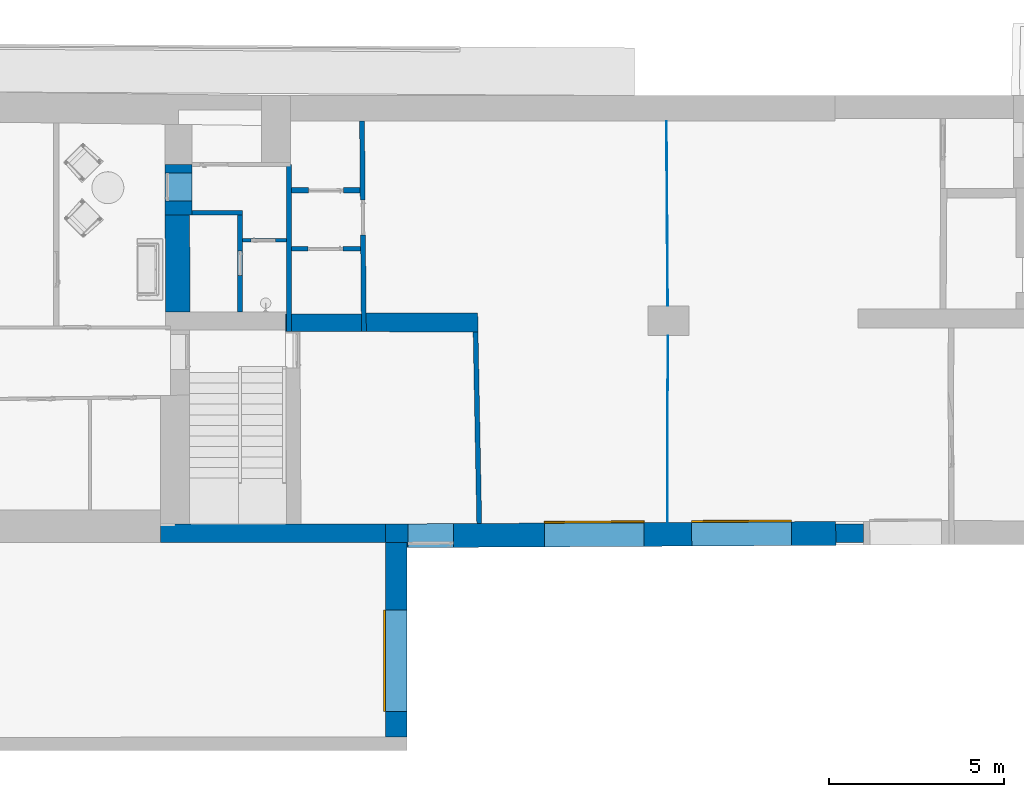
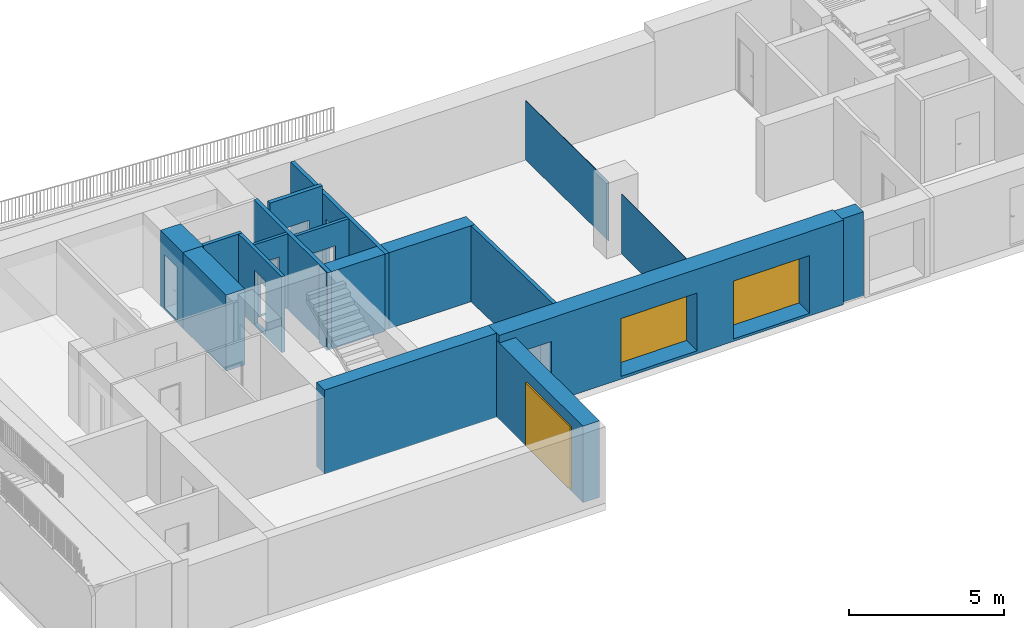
# One storey, part 3 of 17: 17 walls, 3 doors, 14 openings.
"""IFC2X3 building model written with IfcOpenShell, lengths in millimetres."""

from ifc_helpers import new_model, entity, si_unit, converted_unit, derived_unit, direction, frame, frame_2d, origin, origin_2d_with_axis, place, context, subcontext, project, spatial, polyline, rectangle, outline, extrude, clip, bounded_halfspace, source, transform, mapped, material, layer, layer_set, layer_usage, type_object, type_shapes, element, fill, save


model = new_model("IFC2X3")

# Units and contexts
model_context = context("Model", 3, precision=0.01, world=origin(), true_north=direction((6.12303176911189e-17, 1.0)))
context_of_model = context(None, 3, precision=0.01, world=origin(), true_north=direction((6.12303176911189e-17, 1.0)))
body_context = subcontext(model_context, "Body", "Model", "MODEL_VIEW")
ifc_project = project(units=[si_unit("LENGTHUNIT", "METRE", prefix="MILLI"), si_unit("AREAUNIT", "SQUARE_METRE"), si_unit("VOLUMEUNIT", "CUBIC_METRE"), converted_unit("PLANEANGLEUNIT", "DEGREE", entity("IfcRatioMeasure", 0.0174532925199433), si_unit("PLANEANGLEUNIT", "RADIAN"), dimensions=[0, 0, 0, 0, 0, 0, 0]), si_unit("MASSUNIT", "GRAM", prefix="KILO"), derived_unit("MASSDENSITYUNIT", [(si_unit("MASSUNIT", "GRAM", prefix="KILO"), 1), (si_unit("LENGTHUNIT", "METRE"), -3)]), si_unit("TIMEUNIT", "SECOND"), si_unit("FREQUENCYUNIT", "HERTZ"), si_unit("THERMODYNAMICTEMPERATUREUNIT", "DEGREE_CELSIUS"), derived_unit("THERMALTRANSMITTANCEUNIT", [(si_unit("MASSUNIT", "GRAM", prefix="KILO"), 1), (si_unit("THERMODYNAMICTEMPERATUREUNIT", "KELVIN"), -1), (si_unit("TIMEUNIT", "SECOND"), -3)]), derived_unit("VOLUMETRICFLOWRATEUNIT", [(si_unit("LENGTHUNIT", "METRE"), 3), (si_unit("TIMEUNIT", "SECOND"), -1)]), si_unit("ELECTRICCURRENTUNIT", "AMPERE"), si_unit("ELECTRICVOLTAGEUNIT", "VOLT"), si_unit("POWERUNIT", "WATT"), si_unit("FORCEUNIT", "NEWTON", prefix="KILO"), si_unit("ILLUMINANCEUNIT", "LUX"), si_unit("LUMINOUSFLUXUNIT", "LUMEN"), si_unit("LUMINOUSINTENSITYUNIT", "CANDELA"), derived_unit("USERDEFINED", [(si_unit("MASSUNIT", "GRAM", prefix="KILO"), -1), (si_unit("LENGTHUNIT", "METRE"), -2), (si_unit("TIMEUNIT", "SECOND"), 3), (si_unit("LUMINOUSFLUXUNIT", "LUMEN"), 1)]), derived_unit("LINEARVELOCITYUNIT", [(si_unit("LENGTHUNIT", "METRE"), 1), (si_unit("TIMEUNIT", "SECOND"), -1)]), si_unit("PRESSUREUNIT", "PASCAL"), derived_unit("USERDEFINED", [(si_unit("LENGTHUNIT", "METRE"), -2), (si_unit("MASSUNIT", "GRAM", prefix="KILO"), 1), (si_unit("TIMEUNIT", "SECOND"), -2)])], contexts=[model_context, context_of_model])

# Site, building, storey
site_placement = place(None, frame((121442.264707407, 135347.995453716, -1800.0)))
site = spatial("IfcSite", under=ifc_project, at=site_placement, Name="Surface", CompositionType="ELEMENT")
building_placement = place(site_placement, origin())
building = spatial("IfcBuilding", under=site, at=building_placement, CompositionType="ELEMENT")
storey_placement = place(building_placement, frame((0.0, 0.0, -1490.0)))
storey = spatial("IfcBuildingStorey", under=building, at=storey_placement, Name="Kelder", CompositionType="ELEMENT", Elevation=-1489.99999999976)

# Wall
ifc_material_1 = material(Name="__Betoonelement")
ifc_layer_1 = layer(ifc_material_1, 140.0)
ifc_layer_set_1 = layer_set([ifc_layer_1], Name="Basic Wall:14_Betoon 2")
ifc_layer_usage_1 = layer_usage(ifc_layer_set_1, "AXIS2", "NEGATIVE", 70.0)
wall_type_1 = type_object("IfcWallType", Name="Basic Wall:14_Betoon 2", PredefinedType="STANDARD", material=ifc_layer_set_1)
wall_1_placement = place(storey_placement, frame((-106456.566491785, -116807.778632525, 0.0), z_axis=(0.0, 0.0, 1.0), x_axis=(0.0, -1.0, 0.0)))
element("IfcWallStandardCase", 1, at=wall_1_placement, inside=storey, type_object=wall_type_1, material=ifc_layer_usage_1, Name="Basic Wall:14_Betoon 2", ObjectType="Basic Wall:14_Betoon 2", context=body_context, shape_type="Clipping", body=[
    clip(extrude(rectangle(XDim=4782.12035943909, YDim=140.000000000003, at=frame_2d((2391.06017971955, 0.0), x_axis=(-1.0, 0.0))), origin(), (0.0, 0.0, 1.0), 2997.0), bounded_halfspace(frame((60.0, -70.0, 2997.0), z_axis=(0.0, 0.0, -1.0), x_axis=(1.0, 0.0, 0.0)), True, frame((60.0, -70.0, 2997.0)), polyline([(0.0, 0.0), (2055.4322422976, 0.0), (2165.43224229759, 0.0), (4162.96981982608, 0.0), (4672.96981982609, 0.0), (4722.12035943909, 0.0), (4722.12035943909, 140.0), (4212.12035943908, 140.0), (2411.70424309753, 140.0), (2291.70424309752, 140.0), (0.0, 140.0), (0.0, 107.488269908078), (0.0, 0.0)]))),
])

# Wall, opening
ifc_layer_usage_2 = layer_usage(ifc_layer_set_1, "AXIS2", "NEGATIVE", 70.0)
wall_2_placement = place(storey_placement, frame((-104315.333458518, -121591.00230585, 0.0), z_axis=(0.0, 0.0, 1.0), x_axis=(-0.00869530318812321, 0.99996219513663, 0.0)))
wall_2 = element("IfcWallStandardCase", 2, at=wall_2_placement, inside=storey, type_object=wall_type_1, material=ifc_layer_usage_2, Name="Basic Wall:14_Betoon 2", ObjectType="Basic Wall:14_Betoon 2", context=body_context, shape_type="Clipping", body=[
    clip(extrude(outline(polyline([(0.0, -70.0), (540.040217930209, -70.0), (6021.4598611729, -70.0), (6022.67724964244, 70.0), (2432.22005119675, 70.0), (2312.21551444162, 70.0), (511.731331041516, 70.0), (1.70869322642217, 70.0), (0.0, -70.0)])), origin(), (0.0, 0.0, 1.0), 2997.0), bounded_halfspace(frame((0.0, -70.0, 2997.0), z_axis=(0.0, 0.0, -1.0), x_axis=(-0.99996219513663, 0.00869530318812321, 0.0)), True, frame((0.0, -70.0, 2997.0)), polyline([(0.0, 0.0), (540.04021793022, 0.0), (6021.4598611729, 0.0), (6022.67724964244, 140.0), (2432.22005119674, 140.0), (2312.21551444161, 140.0), (511.731331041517, 140.0), (1.70869322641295, 140.0), (0.0, 0.0)]))),
])
opening_1_placement = place(wall_2_placement, frame((3759.77243529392, 70.0, 0.0)))
element("IfcOpeningElement", 3, at=opening_1_placement, cuts=wall_2, Name="sma_D01:1000 x 2100mm SU-9 Tuletokke:1", ObjectType="Opening", context=body_context, shape_type="SweptSolid", body=[
    extrude(rectangle(XDim=2099.99999999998, YDim=1000.0, at=frame_2d((1049.99999999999, 500.0), x_axis=(1.0, 0.0))), frame((0.0, 0.0, 0.0), z_axis=(0.0, -1.0, 0.0), x_axis=(0.0, 0.0, 1.0)), (0.0, 0.0, 1.0), 140.0),
])

# Walls
ifc_layer_usage_3 = layer_usage(ifc_layer_set_1, "AXIS2", "NEGATIVE", 70.0)
wall_3_placement = place(storey_placement, frame((-101120.330091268, -121599.783543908, 0.0), z_axis=(0.0, 0.0, 1.0), x_axis=(0.0189998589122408, -0.999819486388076, 0.0)))
element("IfcWallStandardCase", 4, at=wall_3_placement, inside=storey, type_object=wall_type_1, material=ifc_layer_usage_3, Name="Basic Wall:14_Betoon 2", ObjectType="Basic Wall:14_Betoon 2", context=body_context, shape_type="Clipping", body=[
    clip(clip(extrude(outline(polyline([(0.0, -70.0), (5475.518492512, -70.0), (5477.41677952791, 70.0), (3.15192329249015, 70.0), (0.0, -70.0)])), origin(), (0.0, 0.0, 1.0), 2997.0), bounded_halfspace(frame((0.0, -70.0, 2997.0), z_axis=(0.0, 0.0, -1.0), x_axis=(0.999819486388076, -0.0189998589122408, 0.0)), True, frame((0.0, -70.0, 2997.0)), polyline([(0.0, 0.0), (5475.518492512, 0.0), (5477.41677952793, 140.0), (3.15192329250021, 140.0), (0.0, 0.0)]))), bounded_halfspace(frame((5475.51849251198, -70.0, 0.0), z_axis=(0.0, 0.0, 1.0), x_axis=(-0.0225080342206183, -0.999746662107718, 0.0)), True, frame((5475.51849251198, -70.0, 0.0), z_axis=(0.0, 0.0, 1.0), x_axis=(-0.0225080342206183, -0.999746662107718, 0.0)), polyline([(0.0, 0.0), (-70.0036297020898, -0.62665934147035), (-140.007259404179, -1.25331868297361), (-16.7923186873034, -5474.13133619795), (123.243157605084, -5474.13133619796), (0.0, 0.0)]))),
])
ifc_layer_2 = layer(ifc_material_1, 540.0)
ifc_layer_set_2 = layer_set([ifc_layer_2], Name="Basic Wall:54_Betoon 2")
ifc_layer_usage_4 = layer_usage(ifc_layer_set_2, "AXIS2", "POSITIVE", -270.0)
wall_type_2 = type_object("IfcWallType", Name="Basic Wall:54_Betoon 2", PredefinedType="STANDARD", material=ifc_layer_set_2)
wall_4_placement = place(storey_placement, frame((-101049.335431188, -121331.606570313, 0.0), z_axis=(0.0, 0.0, 1.0), x_axis=(-0.999993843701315, 0.00350892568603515, 0.0)))
element("IfcWallStandardCase", 5, at=wall_4_placement, inside=storey, type_object=wall_type_2, material=ifc_layer_usage_4, Name="Basic Wall:54_Betoon 2", ObjectType="Basic Wall:54_Betoon 2", context=body_context, shape_type="Clipping", body=[
    clip(extrude(outline(polyline([(3201.66360743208, -270.0), (3195.07293355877, 270.0), (140.035476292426, 270.0), (0.0, 270.0), (12.1574184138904, -270.0), (3201.66360743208, -270.0)])), origin(), (0.0, 0.0, 1.0), 2997.0), bounded_halfspace(frame((12.1574184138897, -270.0, 2997.0), z_axis=(0.0, 0.0, -1.0), x_axis=(-0.00350892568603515, 0.999993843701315, 0.0)), True, frame((12.1574184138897, -270.0, 2997.0)), polyline([(0.0, 0.0), (3189.50618901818, 0.0), (3182.91551514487, 540.0), (127.878057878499, 540.0), (-12.1574184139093, 540.0), (0.0, 0.0)]))),
])

# Wall, openings
ifc_layer_3 = layer(ifc_material_1, 520.0)
ifc_layer_set_3 = layer_set([ifc_layer_3], Name="Basic Wall:52_Betoon 2")
ifc_layer_usage_5 = layer_usage(ifc_layer_set_3, "AXIS2", "POSITIVE", -260.0)
wall_type_3 = type_object("IfcWallType", Name="Basic Wall:52_Betoon 2", PredefinedType="STANDARD", material=ifc_layer_set_3)
wall_5_placement = place(storey_placement, frame((-110129.148081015, -127354.303636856, -20.0)))
wall_5 = element("IfcWallStandardCase", 6, at=wall_5_placement, inside=storey, type_object=wall_type_3, material=ifc_layer_usage_5, Name="Basic Wall:52_Betoon 2", ObjectType="Basic Wall:52_Betoon 2", context=body_context, shape_type="SweptSolid", body=[
    extrude(rectangle(XDim=20099.7471253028, YDim=519.999999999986, at=frame_2d((10049.8735626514, 3.06954461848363e-12), x_axis=(-1.0, 0.0))), origin(), (0.0, 0.0, 1.0), 3310.0),
])
opening_2_placement = place(wall_5_placement, origin())
element("IfcOpeningElement", 7, at=opening_2_placement, cuts=wall_5, Name="Basic Wall:52_Betoon 2", ObjectType="Opening", context=body_context, shape_type="SweptSolid", body=[
    extrude(rectangle(XDim=2289.99999999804, YDim=1300.0, at=frame_2d((0.0, -8.69704308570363e-12), x_axis=(1.0, 0.0))), frame((7731.0913121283, -408.489636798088, 1235.0), z_axis=(-0.00544261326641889, 0.999985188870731, 0.0), x_axis=(0.0, 0.0, 1.0)), (0.0, 0.0, 1.0), 680.000000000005),
])
opening_3_placement = place(wall_5_placement, origin())
element("IfcOpeningElement", 8, at=opening_3_placement, cuts=wall_5, Name="Basic Wall:52_Betoon 2", ObjectType="Opening", context=body_context, shape_type="SweptSolid", body=[
    extrude(rectangle(XDim=2280.0, YDim=2849.99999999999, at=frame_2d((-2.27373675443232e-13, 0.0), x_axis=(0.0, 1.0))), frame((16615.9597152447, -360.132017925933, 1220.0), z_axis=(-0.00544261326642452, 0.999985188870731, 0.0), x_axis=(-0.999985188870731, -0.00544261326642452, 0.0)), (0.0, 0.0, 1.0), 680.000000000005),
])
opening_4_placement = place(wall_5_placement, origin())
element("IfcOpeningElement", 9, at=opening_4_placement, cuts=wall_5, Name="Basic Wall:52_Betoon 2", ObjectType="Opening", context=body_context, shape_type="SweptSolid", body=[
    extrude(rectangle(XDim=2280.0, YDim=2849.99999999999, at=frame_2d((2.27373675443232e-13, 0.0), x_axis=(0.0, 1.0))), frame((12406.022070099, -383.045419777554, 1230.0), z_axis=(-0.00544261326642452, 0.999985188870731, 0.0), x_axis=(-0.999985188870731, -0.00544261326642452, 0.0)), (0.0, 0.0, 1.0), 680.000000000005),
])

# Wall, opening, door
ifc_layer_4 = layer(ifc_material_1, 620.0)
ifc_layer_set_4 = layer_set([ifc_layer_4], Name="Basic Wall:62_Betoon 2")
ifc_layer_usage_6 = layer_usage(ifc_layer_set_4, "AXIS2", "POSITIVE", -310.0)
wall_type_4 = type_object("IfcWallType", Name="Basic Wall:62_Betoon 2", PredefinedType="STANDARD", material=ifc_layer_set_4)
wall_6_placement = place(storey_placement, frame((-103393.077407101, -133183.780984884, -20.0), z_axis=(0.0, 0.0, 1.0), x_axis=(0.0, 1.0, 0.0)))
wall_6 = element("IfcWallStandardCase", 10, at=wall_6_placement, inside=storey, type_object=wall_type_4, material=ifc_layer_usage_6, Name="Basic Wall:62_Betoon 2", ObjectType="Basic Wall:62_Betoon 2", context=body_context, shape_type="Clipping", body=[
    clip(extrude(outline(polyline([(5569.47734802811, -310.0), (5569.47734802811, 310.0), (0.0, 310.0), (0.417866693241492, -310.0), (5569.47734802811, -310.0)])), origin(), (0.0, 0.0, 1.0), 3017.0), bounded_halfspace(frame((0.0, 310.0, 3017.0), z_axis=(0.0, 0.0, -1.0), x_axis=(-1.0, 0.0, 0.0)), True, frame((0.0, 310.0, 3017.0)), polyline([(0.0, 0.0), (0.230910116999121, -342.607522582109), (5569.47734802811, -342.607522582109), (5569.47734802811, 0.0), (0.0, 0.0)]))),
])
opening_5_placement = place(wall_6_placement, frame((737.062544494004, -310.0, 90.0)))
opening_5 = element("IfcOpeningElement", 11, at=opening_5_placement, cuts=wall_6, Name="SMA_Overhead-Sectional_3000mm +käiguuks 1000.0002:2890 x 2470mm 2:1", ObjectType="Opening", context=body_context, shape_type="SweptSolid", body=[
    extrude(rectangle(XDim=2470.0, YDim=2890.0, at=frame_2d((1235.0, 1445.0), x_axis=(1.0, 0.0))), frame((0.0, 0.0, 0.0), z_axis=(0.0, 1.0, 0.0), x_axis=(0.0, 0.0, 1.0)), (0.0, 0.0, 1.0), 620.0),
])
ifc_material_2 = material(Name="NCS S 1502-G50Y Helmenharmaa, matta, ruisku")
door_style_1 = type_object("IfcDoorStyle", Name="2890 x 2470mm 2", ConstructionType="NOTDEFINED", OperationType="SINGLE_SWING_RIGHT", ParameterTakesPrecedence=False, Sizeable=False, material=ifc_material_2)
shared_shape_1 = source(origin(), body_context, "Body", "SweptSolid", [
    extrude(rectangle(XDim=50.0, YDim=2890.00000000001, at=origin_2d_with_axis()), frame((1445.0, -25.0, 0.0), z_axis=(0.0, 0.0, 1.0), x_axis=(0.0, -1.0, 0.0)), (0.0, 0.0, 1.0), 2470.0),
])
type_shapes(door_style_1, [shared_shape_1])
door_1_placement = place(opening_5_placement, frame((2890.0, 620.0, 0.0), z_axis=(0.0, 0.0, 1.0), x_axis=(-1.0, 0.0, 0.0)))
door_1 = element("IfcDoor", 12, at=door_1_placement, inside=storey, type_object=door_style_1, material=ifc_material_2, Name="SMA_Overhead-Sectional_3000mm +käiguuks 1000.0002:2890 x 2470mm 2", ObjectType="2890 x 2470mm 2", OverallHeight=2470.0, OverallWidth=2890.0, context=body_context, shape_type="MappedRepresentation", body=[
    mapped(shared_shape_1, transform((0.0, 0.0, 0.0), scale=1.0)),
])
fill(opening_5, door_1)

# Wall, openings
ifc_layer_5 = layer(ifc_material_1, 760.0)
ifc_layer_set_5 = layer_set([ifc_layer_5], Name="Basic Wall:76_Betoon 5")
ifc_layer_usage_7 = layer_usage(ifc_layer_set_5, "AXIS2", "POSITIVE", -380.0)
wall_type_5 = type_object("IfcWallType", Name="Basic Wall:76_Betoon 5", PredefinedType="STANDARD", material=ifc_layer_set_5)
wall_7_placement = place(storey_placement, frame((-109616.310640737, -116807.778632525, 0.0), z_axis=(0.0, 0.0, 1.0), x_axis=(0.0, -1.0, 0.0)))
wall_7 = element("IfcWallStandardCase", 13, at=wall_7_placement, inside=storey, type_object=wall_type_5, material=ifc_layer_usage_7, Name="Basic Wall:76_Betoon 5", ObjectType="Basic Wall:76_Betoon 5", context=body_context, shape_type="Clipping", body=[
    clip(extrude(rectangle(XDim=1443.98374067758, YDim=760.0, at=frame_2d((721.99187033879, 0.0), x_axis=(-1.0, 0.0))), origin(), (0.0, 0.0, 1.0), 2997.0), bounded_halfspace(frame((60.0, -380.0, 2997.0), z_axis=(0.0, 0.0, -1.0), x_axis=(1.0, 0.0, 0.0)), True, frame((60.0, -380.0, 2997.0)), polyline([(0.0, 0.0), (1383.98374067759, 0.0), (1383.98374067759, 760.0), (1253.98374067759, 760.0), (0.0, 760.0), (0.0, 0.0)]))),
])
opening_6_placement = place(wall_7_placement, origin())
element("IfcOpeningElement", 14, at=opening_6_placement, cuts=wall_7, Name="Basic Wall:76_Betoon 5", ObjectType="Opening", context=body_context, shape_type="SweptSolid", body=[
    extrude(rectangle(XDim=2099.99999999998, YDim=120.000000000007, at=frame_2d((0.0, 0.0), x_axis=(0.0, 1.0))), frame((0.0, 610.0, 1140.0), z_axis=(0.0, 1.0, 0.0), x_axis=(-1.0, 0.0, 0.0)), (0.0, 0.0, 1.0), 810.000000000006),
])
opening_7_placement = place(wall_7_placement, frame((1048.9837406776, 380.0, 90.0)))
element("IfcOpeningElement", 15, at=opening_7_placement, cuts=wall_7, Name="sma_D01:810 x 2110_SU-01 Siseuks:1", ObjectType="Opening", context=body_context, shape_type="SweptSolid", body=[
    extrude(rectangle(XDim=2099.99999999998, YDim=810.0, at=frame_2d((1049.99999999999, 405.0), x_axis=(1.0, 0.0))), frame((0.0, 0.0, 0.0), z_axis=(0.0, -1.0, 0.0), x_axis=(0.0, 0.0, 1.0)), (0.0, 0.0, 1.0), 760.0),
])

# Wall, opening
ifc_layer_6 = layer(ifc_material_1, 120.0)
ifc_layer_set_6 = layer_set([ifc_layer_6], Name="Basic Wall:12_Betoon")
ifc_layer_usage_8 = layer_usage(ifc_layer_set_6, "AXIS2", "POSITIVE", -60.0)
wall_type_6 = type_object("IfcWallType", Name="Basic Wall:12_Betoon", PredefinedType="STANDARD", material=ifc_layer_set_6)
wall_8_placement = place(storey_placement, frame((-106386.566491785, -119219.482875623, 0.0)))
wall_8 = element("IfcWallStandardCase", 16, at=wall_8_placement, inside=storey, type_object=wall_type_6, material=ifc_layer_usage_8, Name="Basic Wall:12_Betoon", ObjectType="Basic Wall:12_Betoon", context=body_context, shape_type="Clipping", body=[
    clip(extrude(outline(polyline([(0.0, -60.0), (1981.13026467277, -60.0), (1980.08678884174, 60.0), (0.0, 60.0), (0.0, -60.0)])), origin(), (0.0, 0.0, 1.0), 2997.0), bounded_halfspace(frame((0.0, -60.0, 2997.0), z_axis=(0.0, 0.0, -1.0), x_axis=(0.0, -1.0, 0.0)), True, frame((0.0, -60.0, 2997.0)), polyline([(0.0, 0.0), (1981.13026467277, 0.0), (1980.08678884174, 120.0), (0.0, 120.0), (0.0, 0.0)]))),
])
opening_8_placement = place(wall_8_placement, frame((480.0, -60.0, 0.0)))
element("IfcOpeningElement", 17, at=opening_8_placement, cuts=wall_8, Name="sma_D01:1010 x 2110_Siseuks:1", ObjectType="Opening", context=body_context, shape_type="SweptSolid", body=[
    extrude(rectangle(XDim=2099.99999999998, YDim=1000.0, at=frame_2d((1049.99999999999, 500.0), x_axis=(1.0, 0.0))), frame((0.0, 0.0, 0.0), z_axis=(0.0, 1.0, 0.0), x_axis=(0.0, 0.0, 1.0)), (0.0, 0.0, 1.0), 120.0),
])

ifc_layer_7 = layer(ifc_material_1, 110.0)
ifc_layer_set_7 = layer_set([ifc_layer_7], Name="Basic Wall:11_Betoon 2")
ifc_layer_usage_9 = layer_usage(ifc_layer_set_7, "AXIS2", "NEGATIVE", 55.0)
wall_type_7 = type_object("IfcWallType", Name="Basic Wall:11_Betoon 2", PredefinedType="STANDARD", material=ifc_layer_set_7)
wall_9_placement = place(storey_placement, frame((-106526.566491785, -118978.210874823, 87.0), z_axis=(0.0, 0.0, 1.0), x_axis=(-1.0, 0.0, 0.0)))
wall_9 = element("IfcWallStandardCase", 18, at=wall_9_placement, inside=storey, type_object=wall_type_7, material=ifc_layer_usage_9, Name="Basic Wall:11_Betoon 2", ObjectType="Basic Wall:11_Betoon 2", context=body_context, shape_type="Clipping", body=[
    clip(extrude(rectangle(XDim=1265.96896872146, YDim=110.00000000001, at=frame_2d((632.984484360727, 0.0), x_axis=(-1.0, 0.0))), origin(), (0.0, 0.0, 1.0), 2910.0), bounded_halfspace(frame((0.0, -55.0, 2910.0), z_axis=(0.0, 0.0, -1.0), x_axis=(0.0, 1.0, 0.0)), True, frame((0.0, -55.0, 2910.0)), polyline([(0.0, 0.0), (1265.96896872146, 0.0), (1265.96896872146, 110.0), (0.0, 110.0), (0.0, 0.0)]))),
])
opening_9_placement = place(wall_9_placement, frame((1019.0478312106, 55.0, 3.0)))
element("IfcOpeningElement", 19, at=opening_9_placement, cuts=wall_9, Name="sma_D01:700 x 2100mm PVC siseuks:1", ObjectType="Opening", context=body_context, shape_type="SweptSolid", body=[
    extrude(rectangle(XDim=2099.99999999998, YDim=700.0, at=frame_2d((1049.99999999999, 350.0), x_axis=(1.0, 0.0))), frame((0.0, 0.0, 0.0), z_axis=(0.0, -1.0, 0.0), x_axis=(0.0, 0.0, 1.0)), (0.0, 0.0, 1.0), 110.0),
])

# Wall
ifc_layer_8 = layer(ifc_material_1, 130.0)
ifc_layer_set_8 = layer_set([ifc_layer_8], Name="Basic Wall:13_Betoon 2")
ifc_layer_usage_10 = layer_usage(ifc_layer_set_8, "AXIS2", "POSITIVE", -65.0)
wall_type_8 = type_object("IfcWallType", Name="Basic Wall:13_Betoon 2", PredefinedType="STANDARD", material=ifc_layer_set_8)
wall_10_placement = place(storey_placement, frame((-109236.310640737, -118186.762373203, 87.0)))
element("IfcWallStandardCase", 20, at=wall_10_placement, inside=storey, type_object=wall_type_8, material=ifc_layer_usage_10, Name="Basic Wall:13_Betoon 2", ObjectType="Basic Wall:13_Betoon 2", context=body_context, shape_type="Clipping", body=[
    clip(clip(extrude(rectangle(XDim=1443.77518023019, YDim=130.000000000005, at=frame_2d((721.887590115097, 0.0), x_axis=(-1.0, 0.0))), origin(), (0.0, 0.0, 1.0), 2910.0), bounded_halfspace(frame((0.0, -65.0, 2910.0), z_axis=(0.0, 0.0, -1.0), x_axis=(0.0, -1.0, 0.0)), True, frame((0.0, -65.0, 2910.0)), polyline([(0.0, 0.0), (1313.77518023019, 0.0), (1443.77518023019, 0.0), (1443.77518023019, 130.0), (0.0, 130.0), (0.0, 0.0)]))), bounded_halfspace(frame((1443.77518023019, -65.0, 0.0), z_axis=(0.0, 0.0, 1.0), x_axis=(0.0, 1.0, 0.0)), True, frame((1443.77518023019, -65.0, 0.0), z_axis=(0.0, 0.0, 1.0), x_axis=(0.0, 1.0, 0.0)), polyline([(0.0, 0.0), (130.0, 0.0), (130.0, 1443.7751802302), (0.0, 1443.77518023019), (0.0, 0.0)]))),
])

# Wall, opening
ifc_layer_usage_11 = layer_usage(ifc_layer_set_8, "AXIS2", "POSITIVE", -65.0)
wall_11_placement = place(storey_placement, frame((-107857.535460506, -118251.762373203, 0.0), z_axis=(0.0, 0.0, 1.0), x_axis=(0.0, -1.0, 0.0)))
wall_11 = element("IfcWallStandardCase", 21, at=wall_11_placement, inside=storey, type_object=wall_type_8, material=ifc_layer_usage_11, Name="Basic Wall:13_Betoon 2", ObjectType="Basic Wall:13_Betoon 2", context=body_context, shape_type="Clipping", body=[
    clip(extrude(rectangle(XDim=2778.98607914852, YDim=130.000000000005, at=frame_2d((1389.49303957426, 0.0), x_axis=(-1.0, 0.0))), origin(), (0.0, 0.0, 1.0), 2997.0), bounded_halfspace(frame((0.0, -65.0, 2997.0), z_axis=(0.0, 0.0, -1.0), x_axis=(1.0, 0.0, 0.0)), True, frame((0.0, -65.0, 2997.0)), polyline([(0.0, 0.0), (2778.98607914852, 0.0), (2778.98607914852, 130.0), (781.448501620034, 130.0), (671.448501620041, 130.0), (0.0, 130.0), (0.0, 0.0)]))),
])
opening_10_placement = place(wall_11_placement, frame((1034.49303957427, -65.0, 90.0)))
element("IfcOpeningElement", 22, at=opening_10_placement, cuts=wall_11, Name="sma_D01:700 x 2100mm PVC siseuks:1", ObjectType="Opening", context=body_context, shape_type="SweptSolid", body=[
    extrude(rectangle(XDim=2099.99999999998, YDim=700.0, at=frame_2d((1049.99999999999, 350.0), x_axis=(1.0, 0.0))), frame((0.0, 0.0, 0.0), z_axis=(0.0, 1.0, 0.0), x_axis=(0.0, 0.0, 1.0)), (0.0, 0.0, 1.0), 130.0),
])

# Wall, openings, doors
ifc_layer_9 = layer(ifc_material_1, 680.0)
ifc_layer_set_9 = layer_set([ifc_layer_9], Name="Basic Wall:68_Betoon")
ifc_layer_usage_12 = layer_usage(ifc_layer_set_9, "AXIS2", "NEGATIVE", 340.0)
wall_type_9 = type_object("IfcWallType", Name="Basic Wall:68_Betoon", PredefinedType="NOTDEFINED")
wall_12_placement = place(storey_placement, frame((-90820.133063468, -127359.773143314, -40.5478570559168), z_axis=(0.0, 0.0, 1.0), x_axis=(-0.999985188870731, -0.00544261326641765, 0.0)))
wall_12 = element("IfcWallStandardCase", 23, at=wall_12_placement, inside=storey, type_object=wall_type_9, material=ifc_layer_usage_12, Name="Basic Wall:68_Betoon", ObjectType="Basic Wall:68_Betoon", context=body_context, shape_type="SweptSolid", body=[
    extrude(outline(polyline([(12881.2846414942, -340.0), (12884.9856733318, 340.0), (0.0, 340.0), (0.632101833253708, -340.0), (12881.2846414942, -340.0)])), origin(), (0.0, 0.0, 1.0), 3330.54785705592),
])
opening_11_placement = place(wall_12_placement, frame((10929.945706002, -340.0, 110.54785705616)))
element("IfcOpeningElement", 24, at=opening_11_placement, cuts=wall_12, Name="sma_D01:1300 x 2290mm 3:1", ObjectType="Opening", context=body_context, shape_type="SweptSolid", body=[
    extrude(rectangle(XDim=2289.99999999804, YDim=1300.0, at=frame_2d((1144.99999999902, 650.0), x_axis=(1.0, 0.0))), frame((0.0, 0.0, 0.0), z_axis=(0.0, 1.0, 0.0), x_axis=(0.0, 0.0, 1.0)), (0.0, 0.0, 1.0), 680.0),
])
opening_12_placement = place(wall_12_placement, frame((8329.94570600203, 340.0, 110.54785705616)))
opening_12 = element("IfcOpeningElement", 25, at=opening_12_placement, cuts=wall_12, Name="SMA_Overhead-Sectional_3000mm +käiguuks 1000.0002:285 x 228mm:1", ObjectType="Opening", context=body_context, shape_type="SweptSolid", body=[
    extrude(rectangle(XDim=2280.0, YDim=2850.0, at=frame_2d((1140.0, 1425.0), x_axis=(1.0, 0.0))), frame((0.0, 0.0, 0.0), z_axis=(0.0, -1.0, 0.0), x_axis=(0.0, 0.0, 1.0)), (0.0, 0.0, 1.0), 680.0),
])
opening_13_placement = place(wall_12_placement, frame((4119.94570600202, 340.0, 100.54785705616)))
opening_13 = element("IfcOpeningElement", 26, at=opening_13_placement, cuts=wall_12, Name="SMA_Overhead-Sectional_3000mm +käiguuks 1000.0002:285 x 228mm:1", ObjectType="Opening", context=body_context, shape_type="SweptSolid", body=[
    extrude(rectangle(XDim=2280.0, YDim=2850.0, at=frame_2d((1140.0, 1425.0), x_axis=(1.0, 0.0))), frame((0.0, 0.0, 0.0), z_axis=(0.0, -1.0, 0.0), x_axis=(0.0, 0.0, 1.0)), (0.0, 0.0, 1.0), 680.0),
])
door_style_2 = type_object("IfcDoorStyle", Name="285 x 228mm", ConstructionType="NOTDEFINED", OperationType="SINGLE_SWING_RIGHT", ParameterTakesPrecedence=False, Sizeable=False, material=ifc_material_2)
shared_shape_2 = source(origin(), body_context, "Body", "SweptSolid", [
    extrude(rectangle(XDim=50.0, YDim=2850.00000000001, at=origin_2d_with_axis()), frame((1425.0, -25.0, 0.0), z_axis=(0.0, 0.0, 1.0), x_axis=(0.0, -1.0, 0.0)), (0.0, 0.0, 1.0), 2280.0),
])
type_shapes(door_style_2, [shared_shape_2])
door_2_placement = place(opening_13_placement, frame((-2850.0, -680.0, 0.0)))
door_2 = element("IfcDoor", 27, at=door_2_placement, inside=storey, type_object=door_style_2, material=ifc_material_2, Name="SMA_Overhead-Sectional_3000mm +käiguuks 1000.0002:285 x 228mm", ObjectType="285 x 228mm", OverallHeight=2280.0, OverallWidth=2850.00000000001, context=body_context, shape_type="MappedRepresentation", body=[
    mapped(shared_shape_2, transform((0.0, 0.0, 0.0), scale=1.0)),
])
fill(opening_13, door_2)
door_3_placement = place(opening_12_placement, frame((-2850.0, -680.0, 0.0)))
door_3 = element("IfcDoor", 28, at=door_3_placement, inside=storey, type_object=door_style_2, material=ifc_material_2, Name="SMA_Overhead-Sectional_3000mm +käiguuks 1000.0002:285 x 228mm", ObjectType="285 x 228mm", OverallHeight=2280.0, OverallWidth=2850.00000000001, context=body_context, shape_type="MappedRepresentation", body=[
    mapped(shared_shape_2, transform((0.0, 0.0, 0.0), scale=1.0)),
])
fill(opening_12, door_3)

# Walls
ifc_layer_10 = layer(ifc_material_1, 510.0)
ifc_layer_set_10 = layer_set([ifc_layer_10], Name="Basic Wall:51_Betoon 2")
ifc_layer_usage_13 = layer_usage(ifc_layer_set_10, "AXIS2", "NEGATIVE", 255.0)
wall_type_10 = type_object("IfcWallType", Name="Basic Wall:51_Betoon 2", PredefinedType="STANDARD", material=ifc_layer_set_10)
wall_13_placement = place(storey_placement, frame((-104385.34569897, -121334.898991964, -55.0), z_axis=(0.0, 0.0, 1.0), x_axis=(-1.0, 0.0, 0.0)))
element("IfcWallStandardCase", 29, at=wall_13_placement, inside=storey, type_object=wall_type_10, material=ifc_layer_usage_13, Name="Basic Wall:51_Betoon 2", ObjectType="Basic Wall:51_Betoon 2", context=body_context, shape_type="Clipping", body=[
    clip(extrude(outline(polyline([(2171.21156675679, -255.0), (2168.39918323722, 255.0), (0.0, 255.0), (4.43477228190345, -255.0), (2171.21156675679, -255.0)])), origin(), (0.0, 0.0, 1.0), 3052.0), bounded_halfspace(frame((4.43477228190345, -255.0, 3052.0), z_axis=(0.0, 0.0, -1.0), x_axis=(0.0, 1.0, 0.0)), True, frame((4.43477228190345, -255.0, 3052.0)), polyline([(0.0, 0.0), (1996.78602053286, 0.0), (1996.78602053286, 510.0), (1753.95817706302, 510.0), (-4.43477228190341, 510.0), (0.0, 0.0)]))),
])
ifc_layer_11 = layer(ifc_material_1, 700.0)
ifc_layer_set_11 = layer_set([ifc_layer_11], Name="Basic Wall:70_Betoon")
ifc_layer_usage_14 = layer_usage(ifc_layer_set_11, "AXIS2", "POSITIVE", -350.0)
wall_type_11 = type_object("IfcWallType", Name="Basic Wall:70_Betoon", PredefinedType="STANDARD", material=ifc_layer_set_11)
wall_14_placement = place(storey_placement, frame((-109647.094537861, -118250.856442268, 0.0), z_axis=(0.0, 0.0, 1.0), x_axis=(0.00258837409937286, -0.99999665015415, 0.0)))
element("IfcWallStandardCase", 30, at=wall_14_placement, inside=storey, type_object=wall_type_11, material=ifc_layer_usage_14, Name="Basic Wall:70_Betoon", ObjectType="Basic Wall:70_Betoon", context=body_context, shape_type="Clipping", body=[
    clip(extrude(outline(polyline([(2778.99538835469, -350.0), (2779.90132232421, 0.0), (2780.80725629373, 350.0), (1.81186793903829, 350.0), (0.0, -350.0), (2778.99538835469, -350.0)])), origin(), (0.0, 0.0, 1.0), 2997.0), bounded_halfspace(frame((0.0, -350.0, 2997.0), z_axis=(0.0, 0.0, -1.0), x_axis=(0.99999665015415, -0.00258837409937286, 0.0)), True, frame((0.0, -350.0, 2997.0)), polyline([(0.0, 0.0), (2778.9953883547, 0.0), (2780.80725629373, 700.0), (1.81186793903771, 700.0), (0.0, 0.0)]))),
])
ifc_layer_12 = layer(ifc_material_1, 15.0)
ifc_layer_set_12 = layer_set([ifc_layer_12], Name="Basic Wall:1.5_Betoon 3")
ifc_layer_usage_15 = layer_usage(ifc_layer_set_12, "AXIS2", "NEGATIVE", 7.5)
wall_type_12 = type_object("IfcWallType", Name="Basic Wall:1.5_Betoon 3", PredefinedType="STANDARD", material=ifc_layer_set_12)
wall_15_placement = place(storey_placement, frame((-95633.1319097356, -127046.019587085, 0.0), z_axis=(0.0, 0.0, 1.0), x_axis=(0.00199735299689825, 0.999998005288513, 0.0)))
element("IfcWallStandardCase", 31, at=wall_15_placement, inside=storey, type_object=wall_type_12, material=ifc_layer_usage_15, Name="Basic Wall:1.5_Betoon 3", ObjectType="Basic Wall:1.5_Betoon 3", context=body_context, shape_type="SweptSolid", body=[
    extrude(outline(polyline([(5342.18478794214, -7.49999999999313), (5342.18478794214, 7.50000000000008), (0.0, 7.50000000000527), (0.111601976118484, -7.49999999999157), (5342.18478794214, -7.49999999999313)])), origin(), (0.0, 0.0, 1.0), 2365.0),
])
ifc_layer_13 = layer(ifc_material_1, 20.0)
ifc_layer_set_13 = layer_set([ifc_layer_13], Name="Basic Wall:2_Betoon 2")
ifc_layer_usage_16 = layer_usage(ifc_layer_set_13, "AXIS2", "NEGATIVE", 10.0)
wall_type_13 = type_object("IfcWallType", Name="Basic Wall:2_Betoon 2", PredefinedType="STANDARD", material=ifc_layer_set_13)
wall_16_placement = place(storey_placement, frame((-95624.7606838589, -120852.453109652, 0.0), z_axis=(0.0, 0.0, 1.0), x_axis=(-0.00678591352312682, 0.999976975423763, 0.0)))
element("IfcWallStandardCase", 32, at=wall_16_placement, inside=storey, type_object=wall_type_13, material=ifc_layer_usage_16, Name="Basic Wall:2_Betoon 2", ObjectType="Basic Wall:2_Betoon 2", context=body_context, shape_type="SweptSolid", body=[
    extrude(outline(polyline([(5283.34548338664, -10.0), (5283.48120478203, 10.0), (0.0, 10.0), (0.0, -10.0), (5283.34548338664, -10.0)])), origin(), (0.0, 0.0, 1.0), 2340.0),
])

# Wall, opening
ifc_material_3 = material(Name="Plaster")
ifc_layer_14 = layer(ifc_material_3, 10.0)
ifc_material_4 = material(Name="EST. Müüritis. Väikeplokk. Kergkruusplokk")
ifc_layer_15 = layer(ifc_material_4, 130.0)
ifc_layer_16 = layer(ifc_material_3, 10.0)
ifc_layer_set_14 = layer_set([ifc_layer_14, ifc_layer_15, ifc_layer_16], Name="Basic Wall:15_FIBO")
ifc_layer_usage_17 = layer_usage(ifc_layer_set_14, "AXIS2", "NEGATIVE", 75.0)
wall_type_14 = type_object("IfcWallType", Name="Basic Wall:15_FIBO", PredefinedType="STANDARD", material=ifc_layer_set_14)
wall_17_placement = place(storey_placement, frame((-106386.566491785, -117542.778632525, 0.0)))
wall_17 = element("IfcWallStandardCase", 33, at=wall_17_placement, inside=storey, type_object=wall_type_14, material=ifc_layer_usage_17, Name="Basic Wall:15_FIBO", ObjectType="Basic Wall:15_FIBO", context=body_context, shape_type="SweptSolid", body=[
    extrude(rectangle(XDim=1965.3763514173, YDim=150.000000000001, at=frame_2d((982.688175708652, 0.0), x_axis=(-1.0, 0.0))), origin(), (0.0, 0.0, 1.0), 3290.0),
])
opening_14_placement = place(wall_17_placement, frame((1482.68817570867, 75.0, 0.0)))
element("IfcOpeningElement", 34, at=opening_14_placement, cuts=wall_17, Name="sma_D01:1010 x 2110_Siseuks:1", ObjectType="Opening", context=body_context, shape_type="SweptSolid", body=[
    extrude(rectangle(XDim=2099.99999999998, YDim=1000.0, at=frame_2d((1049.99999999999, 500.0), x_axis=(1.0, 0.0))), frame((0.0, 0.0, 0.0), z_axis=(0.0, -1.0, 0.0), x_axis=(0.0, 0.0, 1.0)), (0.0, 0.0, 1.0), 150.0),
])

save(model, "model.ifc")
